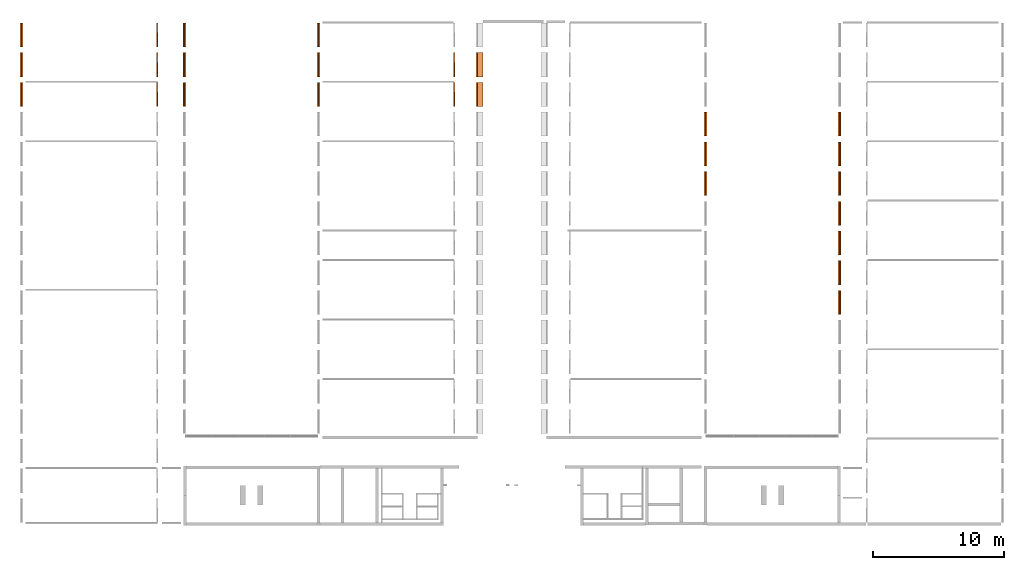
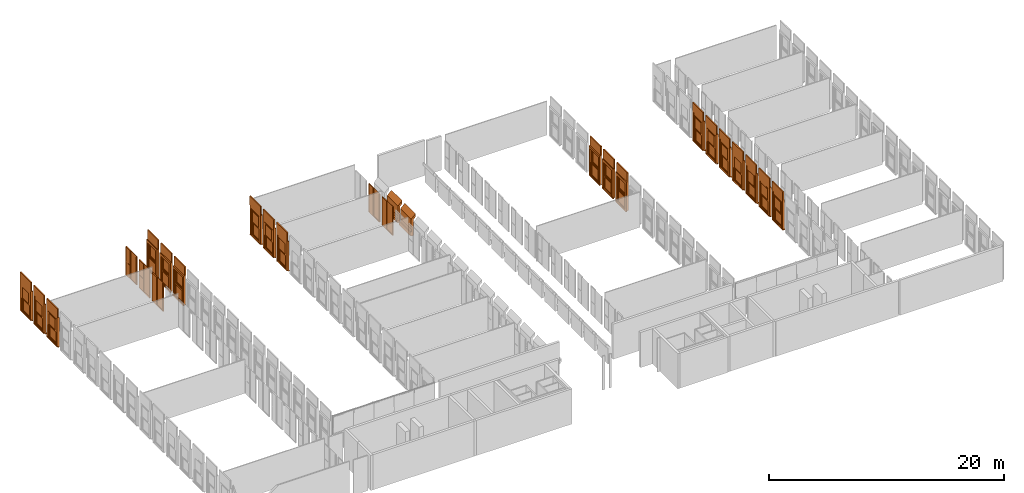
# One storey, part 11 of 13: 26 proxies.
"""IFC2X3 building model written with IfcOpenShell, lengths in millimetres."""

from ifc_helpers import new_model, entity, si_unit, converted_unit, derived_unit, direction, frame, frame_2d, origin, origin_2d_with_axis, place, context, subcontext, project, spatial, polyline, rectangle, outline, extrude, source, transform, mapped, material, material_list, type_object, type_shapes, element, save


model = new_model("IFC2X3")

# Units and contexts
model_context = context("Model", 3, precision=0.01, world=origin(), true_north=direction((6.12303176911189e-17, 1.0)))
body_context = subcontext(model_context, "Body", "Model", "MODEL_VIEW")
ifc_project = project(units=[si_unit("LENGTHUNIT", "METRE", prefix="MILLI"), si_unit("AREAUNIT", "SQUARE_METRE"), si_unit("VOLUMEUNIT", "CUBIC_METRE"), converted_unit("PLANEANGLEUNIT", "DEGREE", entity("IfcRatioMeasure", 0.0174532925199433), si_unit("PLANEANGLEUNIT", "RADIAN"), dimensions=[0, 0, 0, 0, 0, 0, 0]), si_unit("MASSUNIT", "GRAM", prefix="KILO"), derived_unit("MASSDENSITYUNIT", [(si_unit("MASSUNIT", "GRAM", prefix="KILO"), 1), (si_unit("LENGTHUNIT", "METRE"), -3)]), derived_unit("MOMENTOFINERTIAUNIT", [(si_unit("LENGTHUNIT", "METRE"), 4)]), si_unit("TIMEUNIT", "SECOND"), si_unit("FREQUENCYUNIT", "HERTZ"), si_unit("THERMODYNAMICTEMPERATUREUNIT", "DEGREE_CELSIUS"), derived_unit("THERMALTRANSMITTANCEUNIT", [(si_unit("MASSUNIT", "GRAM", prefix="KILO"), 1), (si_unit("THERMODYNAMICTEMPERATUREUNIT", "KELVIN"), -1), (si_unit("TIMEUNIT", "SECOND"), -3)]), derived_unit("VOLUMETRICFLOWRATEUNIT", [(si_unit("LENGTHUNIT", "METRE"), 3), (si_unit("TIMEUNIT", "SECOND"), -1)]), si_unit("ELECTRICCURRENTUNIT", "AMPERE"), si_unit("ELECTRICVOLTAGEUNIT", "VOLT"), si_unit("POWERUNIT", "WATT"), si_unit("FORCEUNIT", "NEWTON", prefix="KILO"), si_unit("ILLUMINANCEUNIT", "LUX"), si_unit("LUMINOUSFLUXUNIT", "LUMEN"), si_unit("LUMINOUSINTENSITYUNIT", "CANDELA"), derived_unit("USERDEFINED", [(si_unit("MASSUNIT", "GRAM", prefix="KILO"), -1), (si_unit("LENGTHUNIT", "METRE"), -2), (si_unit("TIMEUNIT", "SECOND"), 3), (si_unit("LUMINOUSFLUXUNIT", "LUMEN"), 1)]), derived_unit("LINEARVELOCITYUNIT", [(si_unit("LENGTHUNIT", "METRE"), 1), (si_unit("TIMEUNIT", "SECOND"), -1)]), si_unit("PRESSUREUNIT", "PASCAL"), derived_unit("USERDEFINED", [(si_unit("LENGTHUNIT", "METRE"), -2), (si_unit("MASSUNIT", "GRAM", prefix="KILO"), 1), (si_unit("TIMEUNIT", "SECOND"), -2)]), derived_unit("LINEARFORCEUNIT", [(si_unit("MASSUNIT", "GRAM", prefix="KILO"), 1), (si_unit("LENGTHUNIT", "METRE"), 1), (si_unit("TIMEUNIT", "SECOND"), -2), (si_unit("LENGTHUNIT", "METRE"), -1)]), derived_unit("PLANARFORCEUNIT", [(si_unit("MASSUNIT", "GRAM", prefix="KILO"), 1), (si_unit("LENGTHUNIT", "METRE"), 1), (si_unit("TIMEUNIT", "SECOND"), -2), (si_unit("LENGTHUNIT", "METRE"), -2)])], contexts=[model_context])

# Site, building, storey
site_placement = place(None, frame((10627.5135316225, 21939.0796949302, 0.0)))
site = spatial("IfcSite", under=ifc_project, at=site_placement, Name="Default", CompositionType="ELEMENT")
building_placement = place(site_placement, origin())
building = spatial("IfcBuilding", under=site, at=building_placement, CompositionType="ELEMENT")
storey_placement = place(building_placement, frame((0.0, 0.0, 7320.0)))
storey = spatial("IfcBuildingStorey", under=building, at=storey_placement, Name="R+2", CompositionType="ELEMENT", Elevation=7320.0)

# Proxies
ifc_material_1 = material(Name="PVC, Flexible")
ifc_material_2 = material(Name="Glass")
ifc_material_list_1 = material_list([ifc_material_1, ifc_material_2])
building_element_proxy_type_1 = type_object("IfcBuildingElementProxyType", Name="FENETRE.dwg:Fenetre ext 296+95", PredefinedType="NOTDEFINED", material=ifc_material_1)
shared_shape_1 = source(origin(), body_context, "Body", "SweptSolid", [
    extrude(rectangle(XDim=1829.99999999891, YDim=112.500043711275, at=origin_2d_with_axis()), frame((-10.4189092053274, 56.2500218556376, 2960.0), z_axis=(0.0, 0.0, 1.0), x_axis=(-1.0, 0.0, 0.0)), (0.0, 0.0, 1.0), 949.999999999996),
    extrude(outline(polyline([(-68.5678005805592, -14.3879872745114), (-72.4883397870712, -33.9999574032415), (-67.5853472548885, -34.9800922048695), (-63.9024543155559, -16.5569155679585), (44.3087537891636, -16.5569155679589), (54.1101018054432, 32.4730097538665), (40.6268723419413, 35.1683804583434), (40.1368049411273, 32.7168841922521), (51.168538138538, 30.5115808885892), (42.1928709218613, -14.3879872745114), (-68.5678005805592, -14.3879872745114)])), frame((-925.418909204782, 66.917049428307, -47.5499763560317), z_axis=(-1.0, 0.0, 0.0), x_axis=(0.0, 0.980598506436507, -0.196026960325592)), (0.0, 0.0, -1.0), 1829.99999999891),
    extrude(outline(polyline([(-64.667066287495, -56.2500218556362), (66.1666874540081, -56.2500218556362), (66.1666874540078, 56.2500218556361), (-67.6663086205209, 56.2500218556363), (-64.667066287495, -56.2500218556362)])), frame((-925.418909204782, -56.2500218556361, -63.833312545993), z_axis=(1.0, 0.0, 0.0), x_axis=(0.0, 0.0, -1.0)), (0.0, 0.0, 1.0), 1829.99999999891),
    extrude(outline(polyline([(-55.5555555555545, 97.0007159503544), (-55.5555555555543, -5.85738417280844), (-55.5555555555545, -95.357341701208), (-45.5555555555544, -95.3573417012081), (-45.5555555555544, -105.357341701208), (174.444444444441, -105.357341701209), (174.444444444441, 106.642659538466), (-45.5555555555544, 106.642659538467), (-45.5555555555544, 97.0007159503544), (-55.5555555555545, 97.0007159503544)])), frame((849.025535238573, 5.85738417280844, 0.0), z_axis=(0.0, 0.0, -1.0), x_axis=(-1.0, 0.0, 0.0)), (0.0, 0.0, -1.0), 2960.0),
    extrude(rectangle(XDim=199.499957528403, YDim=1369.99999999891, at=origin_2d_with_axis()), frame((-10.4189092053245, 0.250021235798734, 2730.0), z_axis=(0.0, 0.0, 1.0), x_axis=(0.0, 1.0, 0.0)), (0.0, 0.0, 1.0), 230.000000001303),
    extrude(outline(polyline([(-97.0007159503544, -55.5555555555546), (5.85738417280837, -55.5555555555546), (95.357341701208, -55.5555555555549), (95.357341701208, -45.5555555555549), (105.357341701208, -45.5555555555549), (105.357341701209, 174.44444444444), (-106.642659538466, 174.444444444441), (-106.642659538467, -45.5555555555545), (-97.0007159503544, -45.5555555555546), (-97.0007159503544, -55.5555555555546)])), frame((-869.863353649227, 5.85738417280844, 0.0), z_axis=(0.0, 0.0, 1.0), x_axis=(0.0, -1.0, 0.0)), (0.0, 0.0, 1.0), 2960.0),
    extrude(rectangle(XDim=1.0, YDim=1079.99999999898, at=origin_2d_with_axis()), frame((-10.4189092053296, -19.5, 130.0), z_axis=(0.0, 0.0, 1.0), x_axis=(0.0, 1.0, 0.0)), (0.0, 0.0, 1.0), 1120.00000000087),
    extrude(rectangle(XDim=1.0, YDim=1079.99999999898, at=frame_2d((-4.21884749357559e-15, 0.0), x_axis=(1.0, 0.0))), frame((-10.4189092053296, -30.5, 130.0), z_axis=(0.0, 0.0, 1.0), x_axis=(0.0, 1.0, 0.0)), (0.0, 0.0, 1.0), 1120.00000000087),
    extrude(rectangle(XDim=1.0, YDim=1079.99999999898, at=frame_2d((-4.21884749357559e-15, 0.0), x_axis=(1.0, 0.0))), frame((-10.4189092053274, 69.5, 1465.0), z_axis=(0.0, 0.0, 1.0), x_axis=(0.0, 1.0, 0.0)), (0.0, 0.0, 1.0), 1120.0),
    extrude(rectangle(XDim=0.999999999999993, YDim=1079.99999999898, at=frame_2d((-8.46545056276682e-15, 0.0), x_axis=(1.0, 0.0))), frame((-10.4189092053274, 80.5, 1465.0), z_axis=(0.0, 0.0, 1.0), x_axis=(0.0, 1.0, 0.0)), (0.0, 0.0, 1.0), 1120.00000000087),
    extrude(outline(polyline([(-685.0, -1365.0), (0.0, -1365.0), (685.0, -1365.0), (685.0, 1365.0), (0.0, 1365.0), (-685.0, 1365.0), (-685.0, -1365.0)]), holes=[polyline([(-640.0, -1320.0), (-640.0, -45.0), (0.0, -45.0), (640.0, -45.0), (640.0, -1320.0), (0.0, -1320.0), (-640.0, -1320.0)]), polyline([(-640.0, 40.0), (-640.0, 1315.0), (0.0, 1315.0), (640.0, 1315.0), (640.0, 40.0), (0.0, 40.0), (-640.0, 40.0)])]), frame((-10.4189092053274, 0.0, 1365.0), z_axis=(0.0, 1.0, 0.0), x_axis=(1.0, 0.0, 0.0)), (0.0, 0.0, 1.0), 50.0),
    extrude(outline(polyline([(-655.0, -667.500000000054), (655.0, -667.500000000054), (655.0, 667.500000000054), (-655.0, 667.500000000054), (-655.0, -667.500000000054)]), holes=[polyline([(-540.0, 552.500000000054), (540.0, 552.500000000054), (540.0, -567.500000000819), (-540.0, -567.500000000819), (-540.0, 552.500000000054)])]), frame((-10.4189092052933, -50.0, 697.500000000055), z_axis=(0.0, 1.0, 0.0), x_axis=(-1.0, 0.0, 0.0)), (0.0, 0.0, 1.0), 50.0),
    extrude(outline(polyline([(-655.0, -667.500000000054), (655.0, -667.500000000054), (655.0, 667.500000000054), (-655.0, 667.500000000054), (-655.0, -667.500000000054)]), holes=[polyline([(-540.0, 552.500000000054), (540.0, 552.500000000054), (540.0, -567.500000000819), (-540.0, -567.500000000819), (-540.0, 552.500000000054)])]), frame((-10.4189092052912, 50.0, 2032.50000000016), z_axis=(0.0, 1.0, 0.0), x_axis=(-1.0, 0.0, 0.0)), (0.0, 0.0, 1.0), 50.0),
])
type_shapes(building_element_proxy_type_1, [shared_shape_1])
proxy_1_placement = place(storey_placement, frame((-10728.9017825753, 15361.3392142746, 0.0), z_axis=(0.0, 0.0, 1.0), x_axis=(0.0, 1.0, 0.0)))
element("IfcBuildingElementProxy", 1, at=proxy_1_placement, inside=storey, type_object=building_element_proxy_type_1, material=ifc_material_list_1, Name="FENETRE.dwg:Fenetre ext 296+95", ObjectType="FENETRE.dwg:Fenetre ext 296+95", context=body_context, shape_type="MappedRepresentation", body=[
    mapped(shared_shape_1, transform((0.0, 0.0, 0.0), scale=1.0)),
])
ifc_material_list_2 = material_list([ifc_material_1, ifc_material_2])
proxy_2_placement = place(storey_placement, frame((-10728.9017825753, 13101.3392142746, 0.0), z_axis=(0.0, 0.0, 1.0), x_axis=(0.0, 1.0, 0.0)))
element("IfcBuildingElementProxy", 2, at=proxy_2_placement, inside=storey, type_object=building_element_proxy_type_1, material=ifc_material_list_2, Name="FENETRE.dwg:Fenetre ext 296+95", ObjectType="FENETRE.dwg:Fenetre ext 296+95", context=body_context, shape_type="MappedRepresentation", body=[
    mapped(shared_shape_1, transform((0.0, 0.0, 0.0), scale=1.0)),
])
ifc_material_list_3 = material_list([ifc_material_1, ifc_material_2])
proxy_3_placement = place(storey_placement, frame((-10728.9017825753, 10841.3392142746, 0.0), z_axis=(0.0, 0.0, 1.0), x_axis=(0.0, 1.0, 0.0)))
element("IfcBuildingElementProxy", 3, at=proxy_3_placement, inside=storey, type_object=building_element_proxy_type_1, material=ifc_material_list_3, Name="FENETRE.dwg:Fenetre ext 296+95", ObjectType="FENETRE.dwg:Fenetre ext 296+95", context=body_context, shape_type="MappedRepresentation", body=[
    mapped(shared_shape_1, transform((0.0, 0.0, 0.0), scale=1.0)),
])
ifc_material_list_4 = material_list([ifc_material_1, ifc_material_2])
proxy_4_placement = place(storey_placement, frame((11863.0982174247, 15361.3392142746, 0.0), z_axis=(0.0, 0.0, 1.0), x_axis=(0.0, 1.0, 0.0)))
element("IfcBuildingElementProxy", 4, at=proxy_4_placement, inside=storey, type_object=building_element_proxy_type_1, material=ifc_material_list_4, Name="FENETRE.dwg:Fenetre ext 296+95", ObjectType="FENETRE.dwg:Fenetre ext 296+95", context=body_context, shape_type="MappedRepresentation", body=[
    mapped(shared_shape_1, transform((0.0, 0.0, 0.0), scale=1.0)),
])
ifc_material_list_5 = material_list([ifc_material_1, ifc_material_2])
proxy_5_placement = place(storey_placement, frame((11863.0982174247, 13101.3392142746, 0.0), z_axis=(0.0, 0.0, 1.0), x_axis=(0.0, 1.0, 0.0)))
element("IfcBuildingElementProxy", 5, at=proxy_5_placement, inside=storey, type_object=building_element_proxy_type_1, material=ifc_material_list_5, Name="FENETRE.dwg:Fenetre ext 296+95", ObjectType="FENETRE.dwg:Fenetre ext 296+95", context=body_context, shape_type="MappedRepresentation", body=[
    mapped(shared_shape_1, transform((0.0, 0.0, 0.0), scale=1.0)),
])
ifc_material_list_6 = material_list([ifc_material_1, ifc_material_2])
proxy_6_placement = place(storey_placement, frame((11863.0982174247, 10841.3392142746, 0.0), z_axis=(0.0, 0.0, 1.0), x_axis=(0.0, 1.0, 0.0)))
element("IfcBuildingElementProxy", 6, at=proxy_6_placement, inside=storey, type_object=building_element_proxy_type_1, material=ifc_material_list_6, Name="FENETRE.dwg:Fenetre ext 296+95", ObjectType="FENETRE.dwg:Fenetre ext 296+95", context=body_context, shape_type="MappedRepresentation", body=[
    mapped(shared_shape_1, transform((0.0, 0.0, 0.0), scale=1.0)),
])
ifc_material_list_7 = material_list([ifc_material_1, ifc_material_2])
proxy_7_placement = place(storey_placement, frame((51473.0982174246, 8581.33921427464, 0.0), z_axis=(0.0, 0.0, 1.0), x_axis=(0.0, 1.0, 0.0)))
element("IfcBuildingElementProxy", 7, at=proxy_7_placement, inside=storey, type_object=building_element_proxy_type_1, material=ifc_material_list_7, Name="FENETRE.dwg:Fenetre ext 296+95", ObjectType="FENETRE.dwg:Fenetre ext 296+95", context=body_context, shape_type="MappedRepresentation", body=[
    mapped(shared_shape_1, transform((0.0, 0.0, 0.0), scale=1.0)),
])
ifc_material_list_8 = material_list([ifc_material_1, ifc_material_2])
proxy_8_placement = place(storey_placement, frame((51473.0982174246, 6321.33921427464, 0.0), z_axis=(0.0, 0.0, 1.0), x_axis=(0.0, 1.0, 0.0)))
element("IfcBuildingElementProxy", 8, at=proxy_8_placement, inside=storey, type_object=building_element_proxy_type_1, material=ifc_material_list_8, Name="FENETRE.dwg:Fenetre ext 296+95", ObjectType="FENETRE.dwg:Fenetre ext 296+95", context=body_context, shape_type="MappedRepresentation", body=[
    mapped(shared_shape_1, transform((0.0, 0.0, 0.0), scale=1.0)),
])
ifc_material_list_9 = material_list([ifc_material_1, ifc_material_2])
proxy_9_placement = place(storey_placement, frame((51473.0982174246, 4061.33921427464, 0.0), z_axis=(0.0, 0.0, 1.0), x_axis=(0.0, 1.0, 0.0)))
element("IfcBuildingElementProxy", 9, at=proxy_9_placement, inside=storey, type_object=building_element_proxy_type_1, material=ifc_material_list_9, Name="FENETRE.dwg:Fenetre ext 296+95", ObjectType="FENETRE.dwg:Fenetre ext 296+95", context=body_context, shape_type="MappedRepresentation", body=[
    mapped(shared_shape_1, transform((0.0, 0.0, 0.0), scale=1.0)),
])
ifc_material_list_10 = material_list([ifc_material_1, ifc_material_2])
proxy_10_placement = place(storey_placement, frame((51473.0982174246, 1801.33921427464, 0.0), z_axis=(0.0, 0.0, 1.0), x_axis=(0.0, 1.0, 0.0)))
element("IfcBuildingElementProxy", 10, at=proxy_10_placement, inside=storey, type_object=building_element_proxy_type_1, material=ifc_material_list_10, Name="FENETRE.dwg:Fenetre ext 296+95", ObjectType="FENETRE.dwg:Fenetre ext 296+95", context=body_context, shape_type="MappedRepresentation", body=[
    mapped(shared_shape_1, transform((0.0, 0.0, 0.0), scale=1.0)),
])
ifc_material_list_11 = material_list([ifc_material_1, ifc_material_2])
proxy_11_placement = place(storey_placement, frame((51473.0982174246, -458.660785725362, 0.0), z_axis=(0.0, 0.0, 1.0), x_axis=(0.0, 1.0, 0.0)))
element("IfcBuildingElementProxy", 11, at=proxy_11_placement, inside=storey, type_object=building_element_proxy_type_1, material=ifc_material_list_11, Name="FENETRE.dwg:Fenetre ext 296+95", ObjectType="FENETRE.dwg:Fenetre ext 296+95", context=body_context, shape_type="MappedRepresentation", body=[
    mapped(shared_shape_1, transform((0.0, 0.0, 0.0), scale=1.0)),
])
ifc_material_list_12 = material_list([ifc_material_1, ifc_material_2])
proxy_12_placement = place(storey_placement, frame((51473.0982174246, -2718.66078572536, 0.0), z_axis=(0.0, 0.0, 1.0), x_axis=(0.0, 1.0, 0.0)))
element("IfcBuildingElementProxy", 12, at=proxy_12_placement, inside=storey, type_object=building_element_proxy_type_1, material=ifc_material_list_12, Name="FENETRE.dwg:Fenetre ext 296+95", ObjectType="FENETRE.dwg:Fenetre ext 296+95", context=body_context, shape_type="MappedRepresentation", body=[
    mapped(shared_shape_1, transform((0.0, 0.0, 0.0), scale=1.0)),
])
ifc_material_list_13 = material_list([ifc_material_1, ifc_material_2])
proxy_13_placement = place(storey_placement, frame((51473.0982174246, -4978.66078572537, 0.0), z_axis=(0.0, 0.0, 1.0), x_axis=(0.0, 1.0, 0.0)))
element("IfcBuildingElementProxy", 13, at=proxy_13_placement, inside=storey, type_object=building_element_proxy_type_1, material=ifc_material_list_13, Name="FENETRE.dwg:Fenetre ext 296+95", ObjectType="FENETRE.dwg:Fenetre ext 296+95", context=body_context, shape_type="MappedRepresentation", body=[
    mapped(shared_shape_1, transform((0.0, 0.0, 0.0), scale=1.0)),
])
ifc_material_list_14 = material_list([ifc_material_1, ifc_material_2])
building_element_proxy_type_2 = type_object("IfcBuildingElementProxyType", Name="FENETRE.dwg:Fenetre ext 296+95", PredefinedType="NOTDEFINED", material=ifc_material_1)
shared_shape_2 = source(origin(), body_context, "Body", "SweptSolid", [
    extrude(rectangle(XDim=112.500043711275, YDim=1829.99999999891, at=origin_2d_with_axis()), frame((-10.4189092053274, -56.2500218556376, 2960.0), z_axis=(0.0, 0.0, 1.0), x_axis=(0.0, 1.0, 0.0)), (0.0, 0.0, 1.0), 949.999999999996),
    extrude(outline(polyline([(27.5499763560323, -64.4170494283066), (47.5499763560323, -64.4170494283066), (47.5499763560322, -59.4170494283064), (28.7622905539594, -59.4170494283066), (7.54997635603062, 46.6946996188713), (-42.4500236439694, 46.6946996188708), (-42.4500236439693, 32.9446996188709), (-39.9500236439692, 32.9446996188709), (-39.9500236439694, 44.1946996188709), (5.83789859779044, 44.1946996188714), (27.5499763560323, -64.4170494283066)])), frame((-925.418909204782, -66.917049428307, -47.5499763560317), z_axis=(1.0, 0.0, 0.0), x_axis=(0.0, 0.0, 1.0)), (0.0, 0.0, 1.0), 1829.99999999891),
    extrude(outline(polyline([(-54.506636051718, -66.1431859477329), (58.0333803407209, -66.1431859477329), (54.4666704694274, 67.6422744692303), (-57.9934147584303, 64.6440974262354), (-54.506636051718, -66.1431859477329)])), frame((-925.418909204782, 56.2500218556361, -63.833312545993), z_axis=(1.0, 0.0, 0.0), x_axis=(0.0, -0.999644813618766, 0.0266504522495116)), (0.0, 0.0, 1.0), 1829.99999999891),
    extrude(outline(polyline([(-97.0007159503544, -55.5555555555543), (5.85738417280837, -55.5555555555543), (95.357341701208, -55.5555555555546), (95.357341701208, -45.5555555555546), (105.357341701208, -45.5555555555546), (105.357341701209, 174.444444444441), (-106.642659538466, 174.444444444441), (-106.642659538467, -45.5555555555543), (-97.0007159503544, -45.5555555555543), (-97.0007159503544, -55.5555555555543)])), frame((849.025535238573, -5.85738417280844, 0.0), z_axis=(0.0, 0.0, 1.0), x_axis=(0.0, 1.0, 0.0)), (0.0, 0.0, 1.0), 2960.0),
    extrude(rectangle(XDim=1369.99999999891, YDim=199.499957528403, at=origin_2d_with_axis()), frame((-10.4189092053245, -0.250021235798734, 2730.0), z_axis=(0.0, 0.0, 1.0), x_axis=(-1.0, 0.0, 0.0)), (0.0, 0.0, 1.0), 230.000000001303),
    extrude(outline(polyline([(-55.5555555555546, 97.0007159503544), (-55.5555555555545, -5.85738417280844), (-55.5555555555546, -95.357341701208), (-45.5555555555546, -95.3573417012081), (-45.5555555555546, -105.357341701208), (174.444444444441, -105.357341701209), (174.444444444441, 106.642659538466), (-45.5555555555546, 106.642659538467), (-45.5555555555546, 97.0007159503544), (-55.5555555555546, 97.0007159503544)])), frame((-869.863353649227, -5.85738417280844, 0.0), z_axis=(0.0, 0.0, -1.0), x_axis=(1.0, 0.0, 0.0)), (0.0, 0.0, -1.0), 2960.0),
    extrude(rectangle(XDim=1079.99999999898, YDim=1.0, at=origin_2d_with_axis()), frame((-10.4189092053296, 19.5, 130.0), z_axis=(0.0, 0.0, 1.0), x_axis=(-1.0, 0.0, 0.0)), (0.0, 0.0, 1.0), 1120.00000000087),
    extrude(rectangle(XDim=1079.99999999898, YDim=1.0, at=origin_2d_with_axis()), frame((-10.4189092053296, 30.5, 130.0), z_axis=(0.0, 0.0, 1.0), x_axis=(-1.0, 0.0, 0.0)), (0.0, 0.0, 1.0), 1120.00000000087),
    extrude(rectangle(XDim=1079.99999999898, YDim=1.0, at=frame_2d((0.0, 4.21884749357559e-15), x_axis=(1.0, 0.0))), frame((-10.4189092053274, -69.5, 1465.0), z_axis=(0.0, 0.0, 1.0), x_axis=(-1.0, 0.0, 0.0)), (0.0, 0.0, 1.0), 1120.0),
    extrude(rectangle(XDim=1079.99999999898, YDim=0.999999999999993, at=frame_2d((0.0, -8.46545056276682e-15), x_axis=(1.0, 0.0))), frame((-10.4189092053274, -80.5, 1465.0), z_axis=(0.0, 0.0, 1.0), x_axis=(-1.0, 0.0, 0.0)), (0.0, 0.0, 1.0), 1120.00000000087),
    extrude(outline(polyline([(-685.0, -1365.0), (0.0, -1365.0), (685.0, -1365.0), (685.0, 1365.0), (0.0, 1365.0), (-685.0, 1365.0), (-685.0, -1365.0)]), holes=[polyline([(-640.0, -1320.0), (-640.0, -45.0), (0.0, -45.0), (640.0, -45.0), (640.0, -1320.0), (0.0, -1320.0), (-640.0, -1320.0)]), polyline([(-640.0, 40.0), (-640.0, 1315.0), (0.0, 1315.0), (640.0, 1315.0), (640.0, 40.0), (0.0, 40.0), (-640.0, 40.0)])]), frame((-10.4189092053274, -50.0, 1365.0), z_axis=(0.0, 1.0, 0.0), x_axis=(1.0, 0.0, 0.0)), (0.0, 0.0, 1.0), 50.0),
    extrude(outline(polyline([(-655.0, -667.500000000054), (655.0, -667.500000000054), (655.0, 667.500000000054), (-655.0, 667.500000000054), (-655.0, -667.500000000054)]), holes=[polyline([(-540.0, 552.500000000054), (540.0, 552.500000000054), (540.0, -567.500000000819), (-540.0, -567.500000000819), (-540.0, 552.500000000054)])]), frame((-10.4189092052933, 0.0, 697.500000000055), z_axis=(0.0, 1.0, 0.0), x_axis=(-1.0, 0.0, 0.0)), (0.0, 0.0, 1.0), 50.0),
    extrude(outline(polyline([(-655.0, -667.500000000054), (655.0, -667.500000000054), (655.0, 667.500000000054), (-655.0, 667.500000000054), (-655.0, -667.500000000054)]), holes=[polyline([(-540.0, 552.500000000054), (540.0, 552.500000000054), (540.0, -567.500000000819), (-540.0, -567.500000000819), (-540.0, 552.500000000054)])]), frame((-10.4189092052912, -100.0, 2032.50000000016), z_axis=(0.0, 1.0, 0.0), x_axis=(-1.0, 0.0, 0.0)), (0.0, 0.0, 1.0), 50.0),
])
type_shapes(building_element_proxy_type_2, [shared_shape_2])
proxy_14_placement = place(storey_placement, frame((1681.87471933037, 15361.3392142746, 0.0), z_axis=(0.0, 0.0, 1.0), x_axis=(0.0, 1.0, 0.0)))
element("IfcBuildingElementProxy", 14, at=proxy_14_placement, inside=storey, type_object=building_element_proxy_type_2, material=ifc_material_list_14, Name="FENETRE.dwg:Fenetre ext 296+95", ObjectType="FENETRE.dwg:Fenetre ext 296+95", context=body_context, shape_type="MappedRepresentation", body=[
    mapped(shared_shape_2, transform((0.0, 0.0, 0.0), scale=1.0)),
])
ifc_material_list_15 = material_list([ifc_material_1, ifc_material_2])
proxy_15_placement = place(storey_placement, frame((1681.87471933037, 13101.3392142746, 0.0), z_axis=(0.0, 0.0, 1.0), x_axis=(0.0, 1.0, 0.0)))
element("IfcBuildingElementProxy", 15, at=proxy_15_placement, inside=storey, type_object=building_element_proxy_type_2, material=ifc_material_list_15, Name="FENETRE.dwg:Fenetre ext 296+95", ObjectType="FENETRE.dwg:Fenetre ext 296+95", context=body_context, shape_type="MappedRepresentation", body=[
    mapped(shared_shape_2, transform((0.0, 0.0, 0.0), scale=1.0)),
])
ifc_material_list_16 = material_list([ifc_material_1, ifc_material_2])
proxy_16_placement = place(storey_placement, frame((1681.87471933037, 10841.3392142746, 0.0), z_axis=(0.0, 0.0, 1.0), x_axis=(0.0, 1.0, 0.0)))
element("IfcBuildingElementProxy", 16, at=proxy_16_placement, inside=storey, type_object=building_element_proxy_type_2, material=ifc_material_list_16, Name="FENETRE.dwg:Fenetre ext 296+95", ObjectType="FENETRE.dwg:Fenetre ext 296+95", context=body_context, shape_type="MappedRepresentation", body=[
    mapped(shared_shape_2, transform((0.0, 0.0, 0.0), scale=1.0)),
])
ifc_material_list_17 = material_list([ifc_material_1, ifc_material_2])
proxy_17_placement = place(storey_placement, frame((41291.8747193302, 8581.33921427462, 0.0), z_axis=(0.0, 0.0, 1.0), x_axis=(0.0, 1.0, 0.0)))
element("IfcBuildingElementProxy", 17, at=proxy_17_placement, inside=storey, type_object=building_element_proxy_type_2, material=ifc_material_list_17, Name="FENETRE.dwg:Fenetre ext 296+95", ObjectType="FENETRE.dwg:Fenetre ext 296+95", context=body_context, shape_type="MappedRepresentation", body=[
    mapped(shared_shape_2, transform((0.0, 0.0, 0.0), scale=1.0)),
])
ifc_material_list_18 = material_list([ifc_material_1, ifc_material_2])
proxy_18_placement = place(storey_placement, frame((41291.8747193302, 6321.33921427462, 0.0), z_axis=(0.0, 0.0, 1.0), x_axis=(0.0, 1.0, 0.0)))
element("IfcBuildingElementProxy", 18, at=proxy_18_placement, inside=storey, type_object=building_element_proxy_type_2, material=ifc_material_list_18, Name="FENETRE.dwg:Fenetre ext 296+95", ObjectType="FENETRE.dwg:Fenetre ext 296+95", context=body_context, shape_type="MappedRepresentation", body=[
    mapped(shared_shape_2, transform((0.0, 0.0, 0.0), scale=1.0)),
])
ifc_material_list_19 = material_list([ifc_material_1, ifc_material_2])
proxy_19_placement = place(storey_placement, frame((41291.8747193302, 4061.33921427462, 0.0), z_axis=(0.0, 0.0, 1.0), x_axis=(0.0, 1.0, 0.0)))
element("IfcBuildingElementProxy", 19, at=proxy_19_placement, inside=storey, type_object=building_element_proxy_type_2, material=ifc_material_list_19, Name="FENETRE.dwg:Fenetre ext 296+95", ObjectType="FENETRE.dwg:Fenetre ext 296+95", context=body_context, shape_type="MappedRepresentation", body=[
    mapped(shared_shape_2, transform((0.0, 0.0, 0.0), scale=1.0)),
])
ifc_material_3 = material(Name="Plywood, Sheathing")
ifc_material_list_20 = material_list([ifc_material_3, ifc_material_2])
building_element_proxy_type_3 = type_object("IfcBuildingElementProxyType", Name="Porte noire:Porte noire", PredefinedType="NOTDEFINED", material=ifc_material_3)
shared_shape_3 = source(origin(), body_context, "Body", "SweptSolid", [
    extrude(rectangle(XDim=100.0, YDim=23.0000000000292, at=origin_2d_with_axis()), frame((-950.918997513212, -50.0, 8.73189890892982), z_axis=(0.0, 0.0, 1.0), x_axis=(0.0, 1.0, 0.0)), (0.0, 0.0, 1.0), 2933.34951039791),
    extrude(rectangle(XDim=19.0, YDim=1038.0, at=frame_2d((7.99360577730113e-15, 0.0), x_axis=(1.0, 0.0))), frame((-420.418997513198, -87.5, 43.7318989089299), z_axis=(0.0, 0.0, 1.0), x_axis=(0.0, 1.0, 0.0)), (0.0, 0.0, 1.0), 2898.5),
    extrude(rectangle(XDim=100.0, YDim=1775.0, at=origin_2d_with_axis()), frame((-51.9189975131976, -50.0, 8.73189890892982), z_axis=(0.0, 0.0, 1.0), x_axis=(0.0, 1.0, 0.0)), (0.0, 0.0, 1.0), 35.0000000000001),
    extrude(rectangle(XDim=100.0, YDim=35.0000000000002, at=origin_2d_with_axis()), frame((853.081002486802, -50.0, 8.73189890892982), z_axis=(0.0, 0.0, 1.0), x_axis=(0.0, 1.0, 0.0)), (0.0, 0.0, 1.0), 2898.5),
    extrude(rectangle(XDim=100.0, YDim=740.0, at=origin_2d_with_axis()), frame((500.581002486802, -50.0, 2907.23189890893), z_axis=(0.0, 0.0, 1.0), x_axis=(0.0, 1.0, 0.0)), (0.0, 0.0, 1.0), 35.0000000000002),
    extrude(rectangle(XDim=100.0, YDim=31.9999999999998, at=origin_2d_with_axis()), frame((114.581002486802, -50.0, 43.7318989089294), z_axis=(0.0, 0.0, 1.0), x_axis=(0.0, 1.0, 0.0)), (0.0, 0.0, 1.0), 2898.5),
    extrude(rectangle(XDim=100.0, YDim=705.0, at=origin_2d_with_axis()), frame((483.081002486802, -50.0, 1343.73189890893), z_axis=(0.0, 0.0, 1.0), x_axis=(0.0, 1.0, 0.0)), (0.0, 0.0, 1.0), 55.0),
    extrude(outline(polyline([(-352.5, -650.0), (352.5, -650.0), (352.5, 650.0), (-352.5, 650.0), (-352.5, -650.0)]), holes=[polyline([(342.5, 640.0), (342.5, -640.0), (-342.5, -640.0), (-342.5, 640.0), (342.5, 640.0)])]), frame((483.081002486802, -80.0, 693.73189890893), z_axis=(0.0, 1.0, 0.0), x_axis=(1.0, 0.0, 0.0)), (0.0, 0.0, 1.0), 70.0),
    extrude(outline(polyline([(-754.25, -352.5), (754.25, -352.5), (754.25, 352.5), (-754.25, 352.5), (-754.25, -352.5)]), holes=[polyline([(744.25, 342.5), (744.25, -342.5), (-744.25, -342.5), (-744.25, 342.5), (744.25, 342.5)])]), frame((483.081002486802, -80.0, 2152.98189890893), z_axis=(0.0, 1.0, 0.0), x_axis=(0.0, 0.0, 1.0)), (0.0, 0.0, 1.0), 70.0),
    extrude(outline(polyline([(-640.0, -342.5), (640.0, -342.5), (640.0, 342.5), (-640.0, 342.5), (-640.0, -342.5)]), holes=[polyline([(630.0, 332.5), (630.0, -332.5), (-630.0, -332.5), (-630.0, 332.5), (630.0, 332.5)])]), frame((483.081002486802, -81.0, 693.731898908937), z_axis=(0.0, 1.0, 0.0), x_axis=(0.0, 0.0, 1.0)), (0.0, 0.0, 1.0), 3.99999999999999),
    extrude(outline(polyline([(-744.25, -342.5), (744.25, -342.5), (744.25, 342.5), (-744.25, 342.5), (-744.25, -342.5)]), holes=[polyline([(734.25, 332.5), (734.25, -332.5), (-734.25, -332.5), (-734.25, 332.5), (734.25, 332.5)])]), frame((483.081002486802, -81.0, 2152.98189890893), z_axis=(0.0, 1.0, 0.0), x_axis=(0.0, 0.0, 1.0)), (0.0, 0.0, 1.0), 3.99999999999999),
    extrude(outline(polyline([(-640.0, -342.5), (640.0, -342.5), (640.0, 342.5), (-640.0, 342.5), (-640.0, -342.5)]), holes=[polyline([(630.0, 332.5), (630.0, -332.5), (-630.0, -332.5), (-630.0, 332.5), (630.0, 332.5)])]), frame((483.081002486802, -15.0, 693.782575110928), z_axis=(0.0, 1.0, 0.0), x_axis=(0.0, 0.0, 1.0)), (0.0, 0.0, 1.0), 5.0),
    extrude(outline(polyline([(-744.25, -342.5), (744.25, -342.5), (744.25, 342.5), (-744.25, 342.5), (-744.25, -342.5)]), holes=[polyline([(734.25, 332.5), (734.25, -332.5), (-734.25, -332.5), (-734.25, 332.5), (734.25, 332.5)])]), frame((483.081002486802, -15.0, 2153.03257511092), z_axis=(0.0, 1.0, 0.0), x_axis=(0.0, 0.0, 1.0)), (0.0, 0.0, 1.0), 5.0),
    extrude(rectangle(XDim=2.0, YDim=665.0, at=frame_2d((8.43769498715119e-15, 0.0), x_axis=(1.0, 0.0))), frame((483.081002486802, -79.0, 1418.73189890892), z_axis=(0.0, 0.0, 1.0), x_axis=(0.0, 1.0, 0.0)), (0.0, 0.0, 1.0), 1468.50000000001),
    extrude(rectangle(XDim=2.0, YDim=665.0, at=frame_2d((8.43769498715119e-15, 0.0), x_axis=(1.0, 0.0))), frame((483.081002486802, -79.0, 63.7318989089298), z_axis=(0.0, 0.0, 1.0), x_axis=(0.0, 1.0, 0.0)), (0.0, 0.0, 1.0), 1260.0),
    extrude(rectangle(XDim=2.0, YDim=665.0, at=frame_2d((1.0547118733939e-15, 0.0), x_axis=(1.0, 0.0))), frame((483.081002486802, -13.0, 1418.78257511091), z_axis=(0.0, 0.0, 1.0), x_axis=(0.0, 1.0, 0.0)), (0.0, 0.0, 1.0), 1468.50000000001),
    extrude(rectangle(XDim=2.0, YDim=665.0, at=frame_2d((1.0547118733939e-15, 0.0), x_axis=(1.0, 0.0))), frame((483.081002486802, -13.0, 63.7825751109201), z_axis=(0.0, 0.0, 1.0), x_axis=(0.0, 1.0, 0.0)), (0.0, 0.0, 1.0), 1260.0),
])
type_shapes(building_element_proxy_type_3, [shared_shape_3])
proxy_20_placement = place(storey_placement, frame((-462.153535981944, 10877.339302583, 0.0), z_axis=(0.0, 0.0, 1.0), x_axis=(0.0, 1.0, 0.0)))
element("IfcBuildingElementProxy", 20, at=proxy_20_placement, inside=storey, type_object=building_element_proxy_type_3, material=ifc_material_list_20, Name="Porte noire:Porte noire", ObjectType="Porte noire:Porte noire", context=body_context, shape_type="MappedRepresentation", body=[
    mapped(shared_shape_3, transform((0.0, 0.0, 0.0), scale=1.0)),
])
ifc_material_list_21 = material_list([ifc_material_3, ifc_material_2])
proxy_21_placement = place(storey_placement, frame((-462.153535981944, 13137.339302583, 0.0), z_axis=(0.0, 0.0, 1.0), x_axis=(0.0, 1.0, 0.0)))
element("IfcBuildingElementProxy", 21, at=proxy_21_placement, inside=storey, type_object=building_element_proxy_type_3, material=ifc_material_list_21, Name="Porte noire:Porte noire", ObjectType="Porte noire:Porte noire", context=body_context, shape_type="MappedRepresentation", body=[
    mapped(shared_shape_3, transform((0.0, 0.0, 0.0), scale=1.0)),
])
ifc_material_list_22 = material_list([ifc_material_3, ifc_material_2])
proxy_22_placement = place(storey_placement, frame((-462.153535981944, 15397.339302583, 0.0), z_axis=(0.0, 0.0, 1.0), x_axis=(0.0, 1.0, 0.0)))
element("IfcBuildingElementProxy", 22, at=proxy_22_placement, inside=storey, type_object=building_element_proxy_type_3, material=ifc_material_list_22, Name="Porte noire:Porte noire", ObjectType="Porte noire:Porte noire", context=body_context, shape_type="MappedRepresentation", body=[
    mapped(shared_shape_3, transform((0.0, 0.0, 0.0), scale=1.0)),
])
ifc_material_list_23 = material_list([ifc_material_3, ifc_material_2])
proxy_23_placement = place(storey_placement, frame((22127.8464640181, 10877.3393025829, 0.0), z_axis=(0.0, 0.0, 1.0), x_axis=(0.0, 1.0, 0.0)))
element("IfcBuildingElementProxy", 23, at=proxy_23_placement, inside=storey, type_object=building_element_proxy_type_3, material=ifc_material_list_23, Name="Porte noire:Porte noire", ObjectType="Porte noire:Porte noire", context=body_context, shape_type="MappedRepresentation", body=[
    mapped(shared_shape_3, transform((0.0, 0.0, 0.0), scale=1.0)),
])
ifc_material_list_24 = material_list([ifc_material_3, ifc_material_2])
proxy_24_placement = place(storey_placement, frame((22127.8464640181, 13137.3393025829, 0.0), z_axis=(0.0, 0.0, 1.0), x_axis=(0.0, 1.0, 0.0)))
element("IfcBuildingElementProxy", 24, at=proxy_24_placement, inside=storey, type_object=building_element_proxy_type_3, material=ifc_material_list_24, Name="Porte noire:Porte noire", ObjectType="Porte noire:Porte noire", context=body_context, shape_type="MappedRepresentation", body=[
    mapped(shared_shape_3, transform((0.0, 0.0, 0.0), scale=1.0)),
])
ifc_material_4 = material(Name="Concrete, Precast Smooth, Light Grey")
building_element_proxy_type_4 = type_object("IfcBuildingElementProxyType", Name="Panneaux mediateque:Panneaux mediateque", PredefinedType="NOTDEFINED", material=ifc_material_4)
shared_shape_4 = source(origin(), body_context, "Body", "SweptSolid", [
    extrude(outline(polyline([(-998.434688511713, -508.899393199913), (-1213.39514999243, -723.859854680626), (-605.283318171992, -723.859854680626), (115.965598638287, -2.61093787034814), (101.823463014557, 11.5311977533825), (296.277827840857, 205.985562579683), (310.419963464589, 191.843426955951), (395.272229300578, 106.991161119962), (639.224068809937, 350.943000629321), (554.371802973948, 435.79526646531), (625.082466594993, 506.505930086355), (473.054508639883, 658.533888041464), (-694.378772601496, -508.899393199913), (-998.434688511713, -508.899393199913)])), frame((0.0, -203.845498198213, 800.153828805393), z_axis=(-1.0, 0.0, 0.0), x_axis=(0.0, 0.707106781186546, -0.707106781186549)), (0.0, 0.0, -1.0), 1830.0),
])
type_shapes(building_element_proxy_type_4, [shared_shape_4])
for number, where, z_axis, x_axis, name in (
    (25, (23837.4872432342, 12175.9203050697, -700.0), (0.0, 0.0, 1.0), (0.0, 1.0, 0.0), "Panneaux mediateque:Panneaux mediateque"),
    (26, (23837.4872432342, 9915.92030506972, -700.0), (0.0, 0.0, 1.0), (0.0, 1.0, 0.0), "Panneaux mediateque:Panneaux mediateque"),
):
    element("IfcBuildingElementProxy", number, at=place(storey_placement, frame(where, z_axis=z_axis, x_axis=x_axis)), inside=storey, type_object=building_element_proxy_type_4, material=ifc_material_4, Name=name, ObjectType="Panneaux mediateque:Panneaux mediateque", context=body_context, shape_type="MappedRepresentation", body=[
        mapped(shared_shape_4, transform((0.0, 0.0, 0.0), scale=1.0)),
    ])

save(model, "model.ifc")
